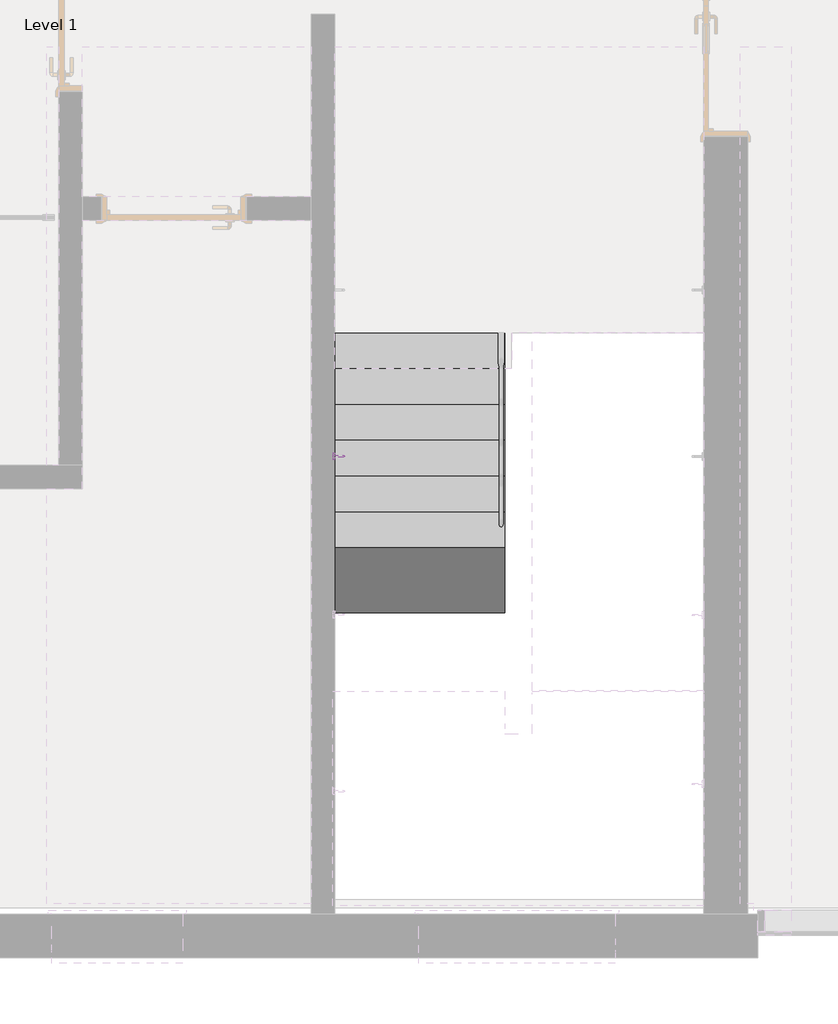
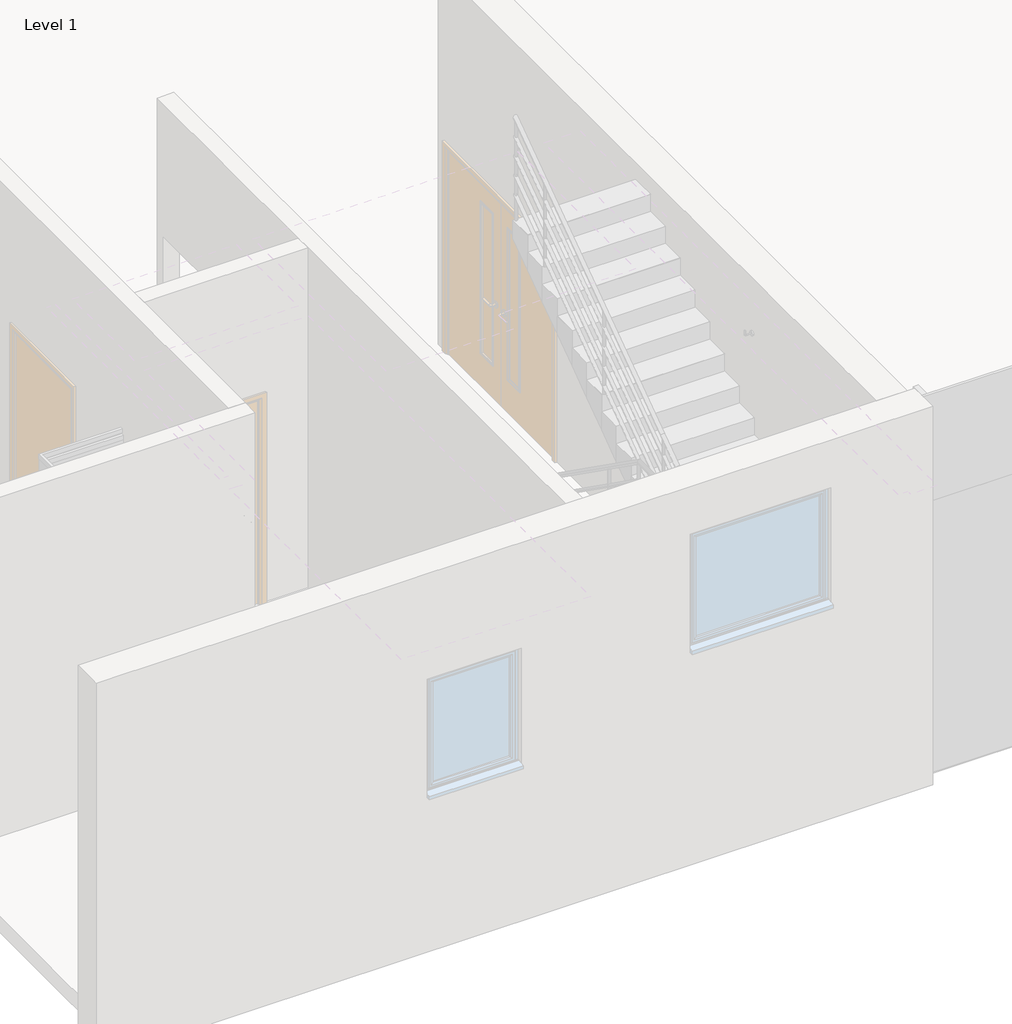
# One storey, part 8 of 12: 1 proxy, 1 stair flight.
"""IFC4 building model written with IfcOpenShell, lengths in millimetres."""

from ifc_helpers import new_model, si_unit, frame, origin, place, context, project, spatial, polyline, outline, extrude, faceted_brep, transform, mapped, element, save
from components import support_metal_circular_support_metal_circular_016e83f0

model = new_model("IFC4")

# Units and contexts
model_context = context("Model", 3, world=origin())
ifc_project = project(units=[si_unit("LENGTHUNIT", "METRE", prefix="MILLI")], contexts=[model_context])

# Site, building, storey
site = spatial("IfcSite", under=ifc_project)
building = spatial("IfcBuilding", under=site)
storey = spatial("IfcBuildingStorey", under=building, Name="Level 1", Elevation=3900.0)

# Proxy
placement = place(None, origin())
support_metal_circular_support_metal_circular_shape = support_metal_circular_support_metal_circular_016e83f0(model_context)
element("IfcBuildingElementProxy", 1, Name="Support - Metal - Circular : Support - Metal - Circular", ObjectType="Support - Metal - Circular : Support - Metal - Circular", at=placement, inside=storey, context=model_context, shape_type="MappedRepresentation", body=[
    mapped(support_metal_circular_support_metal_circular_shape, transform((5322.6000025, 3439.4755703, 5569.9627774), x_axis=(0.0, 1.0, 0.0), y_axis=(-1.0, 0.0, 0.0), z_axis=(0.0, 0.0, 1.0))),
])

# Stair flight
element("IfcStairFlight", 2, ObjectType="1/16\"_Tread-6\"_Depth", at=placement, inside=storey, context=model_context, shape_type="SolidModel", body=[
    faceted_brep([(6447.2000025, 4050.0, 4076.2727273), (6447.2000025, 4300.0, 4076.2727273), (5247.2000025, 4300.0, 4076.2727273), (5247.2000025, 4050.0, 4076.2727273), (6447.2000025, 4050.0, 3900.0), (6447.2000025, 4300.0, 3900.0), (5247.2000025, 4300.0, 3900.0), (5247.2000025, 4050.0, 3900.0), (6447.2000025, 3800.0, 4253.5454545), (6447.2000025, 4050.0, 4253.5454545), (5247.2000025, 4050.0, 4253.5454545), (5247.2000025, 3800.0, 4253.5454545), (6447.2000025, 3800.0, 4069.6617328), (6447.2000025, 4039.2665462, 3900.0), (5247.2000025, 4039.2665462, 3900.0), (5247.2000025, 3800.0, 4069.6617328), (6447.2000025, 3550.0, 4430.8181818), (6447.2000025, 3800.0, 4430.8181818), (5247.2000025, 3800.0, 4430.8181818), (5247.2000025, 3550.0, 4430.8181818), (6447.2000025, 3550.0, 4246.93446), (5247.2000025, 3550.0, 4246.93446), (6447.2000025, 3300.0, 4608.0909091), (6447.2000025, 3550.0, 4608.0909091), (5247.2000025, 3550.0, 4608.0909091), (5247.2000025, 3300.0, 4608.0909091), (6447.2000025, 3300.0, 4424.2071873), (5247.2000025, 3300.0, 4424.2071873), (6447.2000025, 3050.0, 4785.3636364), (6447.2000025, 3300.0, 4785.3636364), (5247.2000025, 3300.0, 4785.3636364), (5247.2000025, 3050.0, 4785.3636364), (6447.2000025, 3050.0, 4601.4799146), (5247.2000025, 3050.0, 4601.4799146), (6447.2000025, 2800.0, 4962.6363636), (6447.2000025, 3050.0, 4962.6363636), (5247.2000025, 3050.0, 4962.6363636), (5247.2000025, 2800.0, 4962.6363636), (6447.2000025, 2800.0, 4778.7526418), (5247.2000025, 2800.0, 4778.7526418), (6447.2000025, 2550.0, 5139.9090909), (6447.2000025, 2800.0, 5139.9090909), (5247.2000025, 2800.0, 5139.9090909), (5247.2000025, 2550.0, 5139.9090909), (6447.2000025, 2550.0, 4956.0253691), (5247.2000025, 2550.0, 4956.0253691), (6447.2000025, 2300.0, 5317.1818182), (6447.2000025, 2550.0, 5317.1818182), (5247.2000025, 2550.0, 5317.1818182), (5247.2000025, 2300.0, 5317.1818182), (6447.2000025, 2300.0, 5133.2980964), (5247.2000025, 2300.0, 5133.2980964), (6447.2000025, 2050.0, 5494.4545455), (6447.2000025, 2300.0, 5494.4545455), (5247.2000025, 2300.0, 5494.4545455), (5247.2000025, 2050.0, 5494.4545455), (6447.2000025, 2050.0, 5310.5708237), (5247.2000025, 2050.0, 5310.5708237), (6447.2000025, 1800.0, 5487.8435509), (5247.2000025, 1800.0, 5487.8435509), (6447.2000025, 1800.0, 5671.7272727), (6447.2000025, 2050.0, 5671.7272727), (5247.2000025, 2050.0, 5671.7272727), (5247.2000025, 1800.0, 5671.7272727)], [[[0, 1, 2, 3]], [[1, 0, 4, 5]], [[2, 1, 5, 6]], [[3, 2, 6, 7]], [[8, 9, 10, 11]], [[4, 0, 9, 8, 12, 13]], [[0, 3, 10, 9]], [[3, 7, 14, 15, 11, 10]], [[16, 17, 18, 19]], [[17, 16, 20, 12, 8]], [[8, 11, 18, 17]], [[19, 18, 11, 15, 21]], [[22, 23, 24, 25]], [[23, 22, 26, 20, 16]], [[16, 19, 24, 23]], [[25, 24, 19, 21, 27]], [[28, 29, 30, 31]], [[29, 28, 32, 26, 22]], [[22, 25, 30, 29]], [[31, 30, 25, 27, 33]], [[34, 35, 36, 37]], [[35, 34, 38, 32, 28]], [[28, 31, 36, 35]], [[37, 36, 31, 33, 39]], [[40, 41, 42, 43]], [[41, 40, 44, 38, 34]], [[34, 37, 42, 41]], [[43, 42, 37, 39, 45]], [[46, 47, 48, 49]], [[47, 46, 50, 44, 40]], [[40, 43, 48, 47]], [[49, 48, 43, 45, 51]], [[52, 53, 54, 55]], [[53, 52, 56, 50, 46]], [[46, 49, 54, 53]], [[55, 54, 49, 51, 57]], [[5, 4, 13, 14, 7, 6]], [[14, 13, 12, 20, 26, 32, 38, 44, 50, 56, 58, 59, 57, 51, 45, 39, 33, 27, 21, 15]], [[60, 61, 62, 63]], [[61, 60, 58, 56, 52]], [[52, 55, 62, 61]], [[63, 62, 55, 57, 59]], [[60, 63, 59, 58]]]),
    extrude(outline(polyline([(6447.2000025, 4050.0), (5247.2000025, 4050.0), (5247.2000025, 4300.0), (6447.2000025, 4300.0), (6447.2000025, 4050.0)])), frame((0.0, 0.0, 4076.2727273), z_axis=(0.0, 0.0, 1.0), x_axis=(1.0, 0.0, 0.0)), (0.0, 0.0, 1.0), 1.0),
    extrude(outline(polyline([(6447.2000025, 3800.0), (5247.2000025, 3800.0), (5247.2000025, 4050.0), (6447.2000025, 4050.0), (6447.2000025, 3800.0)])), frame((0.0, 0.0, 4253.5454545), z_axis=(0.0, 0.0, 1.0), x_axis=(1.0, 0.0, 0.0)), (0.0, 0.0, 1.0), 1.0),
    extrude(outline(polyline([(6447.2000025, 3550.0), (5247.2000025, 3550.0), (5247.2000025, 3800.0), (6447.2000025, 3800.0), (6447.2000025, 3550.0)])), frame((0.0, 0.0, 4430.8181818), z_axis=(0.0, 0.0, 1.0), x_axis=(1.0, 0.0, 0.0)), (0.0, 0.0, 1.0), 1.0),
    extrude(outline(polyline([(6447.2000025, 3300.0), (5247.2000025, 3300.0), (5247.2000025, 3550.0), (6447.2000025, 3550.0), (6447.2000025, 3300.0)])), frame((0.0, 0.0, 4608.0909091), z_axis=(0.0, 0.0, 1.0), x_axis=(1.0, 0.0, 0.0)), (0.0, 0.0, 1.0), 1.0),
    extrude(outline(polyline([(6447.2000025, 3050.0), (5247.2000025, 3050.0), (5247.2000025, 3300.0), (6447.2000025, 3300.0), (6447.2000025, 3050.0)])), frame((0.0, 0.0, 4785.3636364), z_axis=(0.0, 0.0, 1.0), x_axis=(1.0, 0.0, 0.0)), (0.0, 0.0, 1.0), 1.0),
    extrude(outline(polyline([(6447.2000025, 2800.0), (5247.2000025, 2800.0), (5247.2000025, 3050.0), (6447.2000025, 3050.0), (6447.2000025, 2800.0)])), frame((0.0, 0.0, 4962.6363636), z_axis=(0.0, 0.0, 1.0), x_axis=(1.0, 0.0, 0.0)), (0.0, 0.0, 1.0), 1.0),
    extrude(outline(polyline([(6447.2000025, 2550.0), (5247.2000025, 2550.0), (5247.2000025, 2800.0), (6447.2000025, 2800.0), (6447.2000025, 2550.0)])), frame((0.0, 0.0, 5139.9090909), z_axis=(0.0, 0.0, 1.0), x_axis=(1.0, 0.0, 0.0)), (0.0, 0.0, 1.0), 1.0),
    extrude(outline(polyline([(6447.2000025, 2300.0), (5247.2000025, 2300.0), (5247.2000025, 2550.0), (6447.2000025, 2550.0), (6447.2000025, 2300.0)])), frame((0.0, 0.0, 5317.1818182), z_axis=(0.0, 0.0, 1.0), x_axis=(1.0, 0.0, 0.0)), (0.0, 0.0, 1.0), 1.0),
    extrude(outline(polyline([(6447.2000025, 2050.0), (5247.2000025, 2050.0), (5247.2000025, 2300.0), (6447.2000025, 2300.0), (6447.2000025, 2050.0)])), frame((0.0, 0.0, 5494.4545455), z_axis=(0.0, 0.0, 1.0), x_axis=(1.0, 0.0, 0.0)), (0.0, 0.0, 1.0), 1.0),
    extrude(outline(polyline([(6447.2000025, 1800.0), (5247.2000025, 1800.0), (5247.2000025, 2050.0), (6447.2000025, 2050.0), (6447.2000025, 1800.0)])), frame((0.0, 0.0, 5671.7272727), z_axis=(0.0, 0.0, 1.0), x_axis=(1.0, 0.0, 0.0)), (0.0, 0.0, 1.0), 1.0),
])

save(model, "model.ifc")
